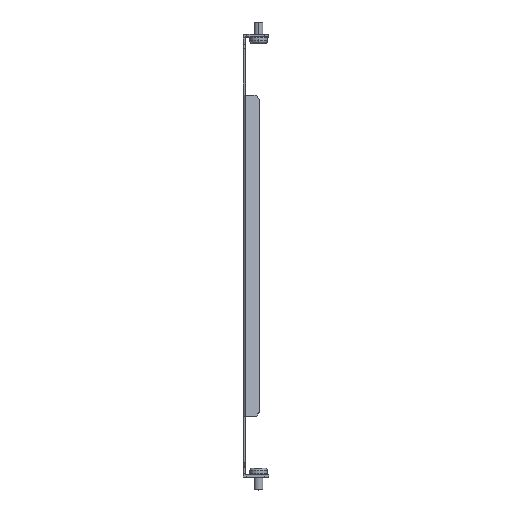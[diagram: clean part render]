
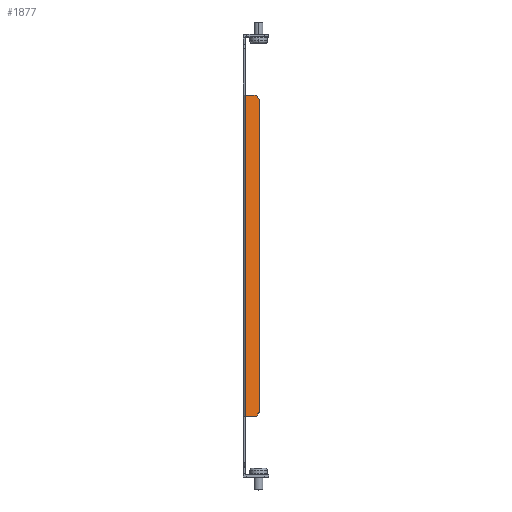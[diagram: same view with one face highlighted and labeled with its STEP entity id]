
A CAD part, top view. The second image highlights one B-rep face of the part: STEP entity #1877.
In plain terms, the highlighted planar face has unit normal (0.5, 0, 0.866).
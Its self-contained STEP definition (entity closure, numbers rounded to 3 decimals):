
#94 = ORIENTED_EDGE ( 'NONE', *, *, #4422, .F. ) ;
#143 = ORIENTED_EDGE ( 'NONE', *, *, #3628, .F. ) ;
#278 = CARTESIAN_POINT ( 'NONE',  ( 11.401, -107.75, 143.614 ) ) ;
#355 = DIRECTION ( 'NONE',  ( 0., -1., 0. ) ) ;
#593 = ORIENTED_EDGE ( 'NONE', *, *, #3757, .T. ) ;
#1441 = DIRECTION ( 'NONE',  ( 0.866, 0., -0.5 ) ) ;
#1604 = LINE ( 'NONE', #6306, #10119 ) ;
#1711 = DIRECTION ( 'NONE',  ( -0.866, 0., 0.5 ) ) ;
#1732 = DIRECTION ( 'NONE',  ( -0.5, 0., -0.866 ) ) ;
#1785 = VERTEX_POINT ( 'NONE', #11134 ) ;
#1877 = ADVANCED_FACE ( 'NONE', ( #5788 ), #9404, .F. ) ;
#2014 = VECTOR ( 'NONE', #3813, 1000. ) ;
#2118 = CARTESIAN_POINT ( 'NONE',  ( 2.25, -110.75, 148.897 ) ) ;
#2245 = DIRECTION ( 'NONE',  ( -0.866, 0., 0.5 ) ) ;
#2258 = EDGE_CURVE ( 'NONE', #5249, #5694, #8117, .T. ) ;
#2383 = LINE ( 'NONE', #11083, #11183 ) ;
#2547 = EDGE_CURVE ( 'NONE', #8295, #5261, #11336, .T. ) ;
#2936 = DIRECTION ( 'NONE',  ( 0., -1., 0. ) ) ;
#3377 = ORIENTED_EDGE ( 'NONE', *, *, #2547, .T. ) ;
#3463 = VECTOR ( 'NONE', #355, 1000. ) ;
#3489 = VECTOR ( 'NONE', #2245, 1000. ) ;
#3628 = EDGE_CURVE ( 'NONE', #5249, #8181, #10163, .T. ) ;
#3757 = EDGE_CURVE ( 'NONE', #10570, #8295, #10512, .T. ) ;
#3813 = DIRECTION ( 'NONE',  ( 0.612, 0.707, -0.354 ) ) ;
#4067 = CARTESIAN_POINT ( 'NONE',  ( 8.803, -110.75, 145.114 ) ) ;
#4131 = EDGE_CURVE ( 'NONE', #1785, #5694, #10084, .T. ) ;
#4422 = EDGE_CURVE ( 'NONE', #8181, #5261, #1604, .T. ) ;
#4689 = EDGE_LOOP ( 'NONE', ( #593, #3377, #94, #143, #6521, #5878, #7230, #7912 ) ) ;
#4998 = DIRECTION ( 'NONE',  ( -0.866, 0., 0.5 ) ) ;
#5249 = VERTEX_POINT ( 'NONE', #4067 ) ;
#5261 = VERTEX_POINT ( 'NONE', #7666 ) ;
#5599 = DIRECTION ( 'NONE',  ( -0.612, 0.707, 0.354 ) ) ;
#5694 = VERTEX_POINT ( 'NONE', #11009 ) ;
#5788 = FACE_OUTER_BOUND ( 'NONE', #4689, .T. ) ;
#5878 = ORIENTED_EDGE ( 'NONE', *, *, #4131, .F. ) ;
#5973 = DIRECTION ( 'NONE',  ( -0.866, 0., 0.5 ) ) ;
#5993 = CARTESIAN_POINT ( 'NONE',  ( 4.5, 110.75, 147.598 ) ) ;
#6306 = CARTESIAN_POINT ( 'NONE',  ( 63.912, -110.75, 113.297 ) ) ;
#6373 = LINE ( 'NONE', #6487, #10245 ) ;
#6487 = CARTESIAN_POINT ( 'NONE',  ( 8.803, 110.75, 145.114 ) ) ;
#6521 = ORIENTED_EDGE ( 'NONE', *, *, #2258, .T. ) ;
#6692 = AXIS2_PLACEMENT_3D ( 'NONE', #8861, #1732, #5973 ) ;
#6712 = CARTESIAN_POINT ( 'NONE',  ( 1.268, 0., 149.464 ) ) ;
#6999 = VERTEX_POINT ( 'NONE', #7023 ) ;
#7023 = CARTESIAN_POINT ( 'NONE',  ( 8.803, 110.75, 145.114 ) ) ;
#7230 = ORIENTED_EDGE ( 'NONE', *, *, #8643, .T. ) ;
#7430 = VECTOR ( 'NONE', #4998, 1000. ) ;
#7464 = CARTESIAN_POINT ( 'NONE',  ( 11.401, -110.75, 143.614 ) ) ;
#7666 = CARTESIAN_POINT ( 'NONE',  ( 1.268, -110.75, 149.464 ) ) ;
#7912 = ORIENTED_EDGE ( 'NONE', *, *, #8302, .F. ) ;
#8117 = LINE ( 'NONE', #278, #2014 ) ;
#8181 = VERTEX_POINT ( 'NONE', #9172 ) ;
#8295 = VERTEX_POINT ( 'NONE', #9282 ) ;
#8302 = EDGE_CURVE ( 'NONE', #10570, #6999, #2383, .T. ) ;
#8643 = EDGE_CURVE ( 'NONE', #1785, #6999, #6373, .T. ) ;
#8861 = CARTESIAN_POINT ( 'NONE',  ( 63.912, 0., 113.297 ) ) ;
#9172 = CARTESIAN_POINT ( 'NONE',  ( 4.5, -110.75, 147.598 ) ) ;
#9282 = CARTESIAN_POINT ( 'NONE',  ( 1.268, 110.75, 149.464 ) ) ;
#9338 = VECTOR ( 'NONE', #2936, 1000. ) ;
#9404 = PLANE ( 'NONE',  #6692 ) ;
#10084 = LINE ( 'NONE', #7464, #9338 ) ;
#10119 = VECTOR ( 'NONE', #1711, 1000. ) ;
#10163 = LINE ( 'NONE', #2118, #3489 ) ;
#10245 = VECTOR ( 'NONE', #5599, 1000. ) ;
#10512 = LINE ( 'NONE', #10627, #7430 ) ;
#10570 = VERTEX_POINT ( 'NONE', #5993 ) ;
#10627 = CARTESIAN_POINT ( 'NONE',  ( 4.5, 110.75, 147.598 ) ) ;
#11009 = CARTESIAN_POINT ( 'NONE',  ( 11.401, -107.75, 143.614 ) ) ;
#11083 = CARTESIAN_POINT ( 'NONE',  ( 11.401, 110.75, 143.614 ) ) ;
#11134 = CARTESIAN_POINT ( 'NONE',  ( 11.401, 107.75, 143.614 ) ) ;
#11183 = VECTOR ( 'NONE', #1441, 1000. ) ;
#11336 = LINE ( 'NONE', #6712, #3463 ) ;
